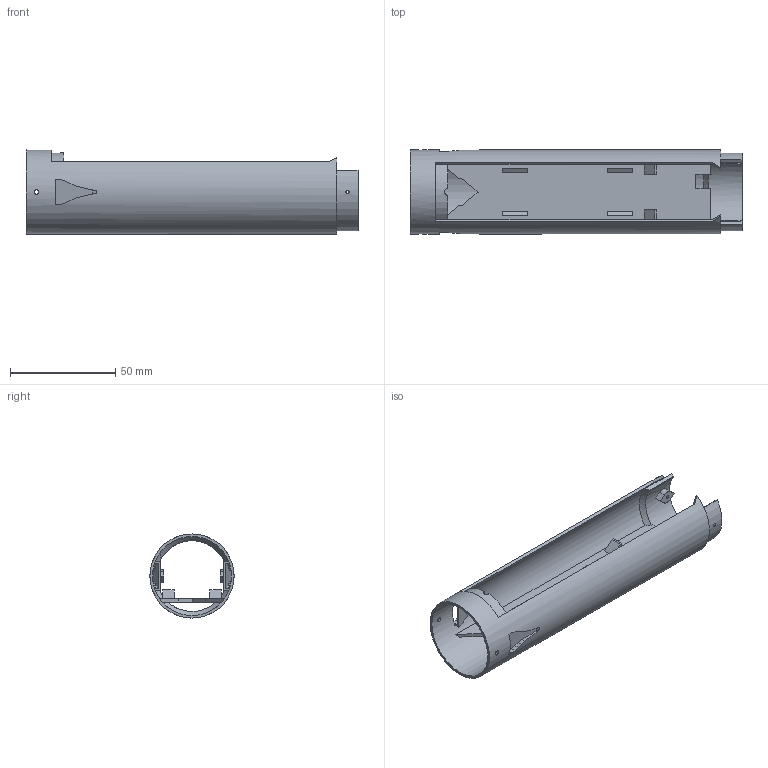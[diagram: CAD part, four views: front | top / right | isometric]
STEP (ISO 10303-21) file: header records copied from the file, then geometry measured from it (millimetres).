
FILE_DESCRIPTION(('Open CASCADE Model'),'2;1');
FILE_NAME('Open CASCADE Shape Model','2026-10-04T21:26:26',('Author'),( 'Open CASCADE'),'Open CASCADE STEP processor 7.9','Open CASCADE 7.9' ,'Unknown');
FILE_SCHEMA(('AUTOMOTIVE_DESIGN { 1 0 10303 214 1 1 1 1 }'));
Length unit declared in the file: millimetre
Products named in the file (1): Open CASCADE STEP translator 7.9 11
Bounding box: 158 x 40 x 40 mm (x, y, z)
Volume: 25299.8 mm3; surface area: 37998 mm2
Topology: 1 solids, 1 shells, 167 faces, 498 edges, 330 vertices
Faces by surface type: plane 114, bspline 34, cylinder 15, cone 4
Full cylindrical faces by diameter (mm): 1.6 x2, 2.2 x2, 37.6 x1, 40 x1
Entity records: 14677 total; most frequent: CARTESIAN_POINT 6096, DIRECTION 1142, ORIENTED_EDGE 996, PCURVE 996, DEFINITIONAL_REPRESENTATION 996, LINE 693, VECTOR 693, B_SPLINE_CURVE_WITH_KNOTS 665
